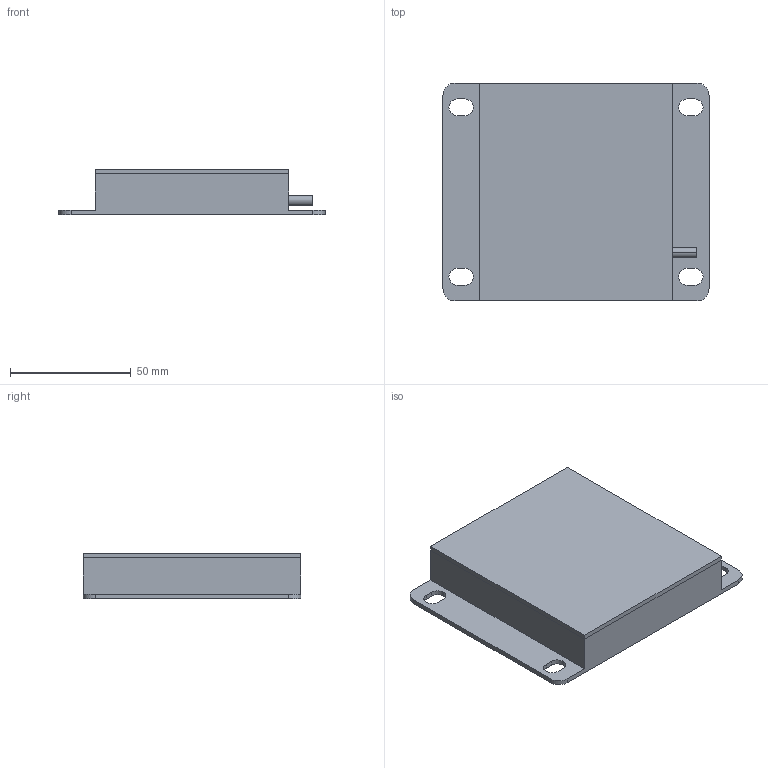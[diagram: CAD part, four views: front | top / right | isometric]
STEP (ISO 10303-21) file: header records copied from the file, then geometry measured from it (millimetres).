
FILE_DESCRIPTION (( 'STEP AP203' ), '1' );
FILE_NAME ('BO9080-W.STEP', '2022-08-27T03:26:28', ( 'Windows User' ), ( 'P R C' ), 'SwSTEP 2.0', 'SolidWorks 2016', '' );
FILE_SCHEMA (( 'CONFIG_CONTROL_DESIGN' ));
Length unit declared in the file: millimetre
Products named in the file (1): BO9080-W
Bounding box: 110 x 90 x 19 mm (x, y, z)
Volume: 130606.9 mm3; surface area: 41193.6 mm2
Topology: 2 solids, 2 shells, 48 faces, 126 edges, 84 vertices
Faces by surface type: plane 30, cylinder 18
Entity records: 1577 total; most frequent: DIRECTION 260, CARTESIAN_POINT 259, ORIENTED_EDGE 252, EDGE_CURVE 126, VECTOR 90, LINE 90, AXIS2_PLACEMENT_3D 85, VERTEX_POINT 84
